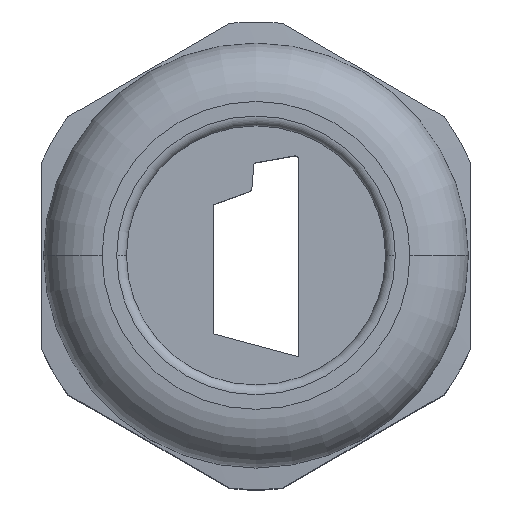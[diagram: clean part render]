
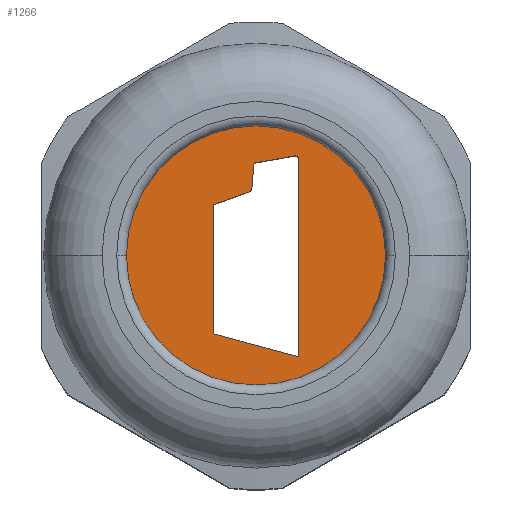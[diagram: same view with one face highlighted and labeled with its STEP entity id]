
A CAD part, top view. The second image highlights one B-rep face of the part: STEP entity #1266.
In plain terms, the highlighted planar face has unit normal (0, 0, 1).
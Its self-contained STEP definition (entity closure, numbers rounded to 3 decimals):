
#537 = VERTEX_POINT ( 'NONE', #1910 ) ;
#538 = ORIENTED_EDGE ( 'NONE', *, *, #600, .F. ) ;
#543 = VERTEX_POINT ( 'NONE', #1904 ) ;
#544 = EDGE_CURVE ( 'NONE', #545, #543, #1903, .T. ) ;
#545 = VERTEX_POINT ( 'NONE', #1899 ) ;
#572 = EDGE_CURVE ( 'NONE', #721, #685, #2067, .T. ) ;
#573 = ORIENTED_EDGE ( 'NONE', *, *, #572, .F. ) ;
#600 = EDGE_CURVE ( 'NONE', #601, #537, #2030, .T. ) ;
#601 = VERTEX_POINT ( 'NONE', #2021 ) ;
#627 = ORIENTED_EDGE ( 'NONE', *, *, #628, .F. ) ;
#628 = EDGE_CURVE ( 'NONE', #685, #545, #2270, .T. ) ;
#629 = EDGE_LOOP ( 'NONE', ( #688, #752 ) ) ;
#630 = EDGE_CURVE ( 'NONE', #721, #631, #2266, .T. ) ;
#631 = VERTEX_POINT ( 'NONE', #2261 ) ;
#654 = VERTEX_POINT ( 'NONE', #2170 ) ;
#655 = ORIENTED_EDGE ( 'NONE', *, *, #741, .T. ) ;
#661 = ORIENTED_EDGE ( 'NONE', *, *, #662, .F. ) ;
#662 = EDGE_CURVE ( 'NONE', #537, #631, #2167, .T. ) ;
#663 = ORIENTED_EDGE ( 'NONE', *, *, #544, .F. ) ;
#685 = VERTEX_POINT ( 'NONE', #2141 ) ;
#688 = ORIENTED_EDGE ( 'NONE', *, *, #1265, .F. ) ;
#721 = VERTEX_POINT ( 'NONE', #2115 ) ;
#727 = ORIENTED_EDGE ( 'NONE', *, *, #728, .F. ) ;
#728 = EDGE_CURVE ( 'NONE', #543, #654, #2334, .T. ) ;
#741 = EDGE_CURVE ( 'NONE', #601, #654, #2307, .T. ) ;
#742 = ORIENTED_EDGE ( 'NONE', *, *, #630, .T. ) ;
#752 = ORIENTED_EDGE ( 'NONE', *, *, #859, .F. ) ;
#857 = VERTEX_POINT ( 'NONE', #2377 ) ;
#859 = EDGE_CURVE ( 'NONE', #857, #860, #2376, .T. ) ;
#860 = VERTEX_POINT ( 'NONE', #2457 ) ;
#1265 = EDGE_CURVE ( 'NONE', #860, #857, #3008, .T. ) ;
#1266 = ADVANCED_FACE ( 'NONE', ( #3003, #3002 ), #3001, .T. ) ;
#1267 = EDGE_LOOP ( 'NONE', ( #573, #742, #661, #538, #655, #727, #663, #627 ) ) ;
#1899 = CARTESIAN_POINT ( 'NONE',  ( -2.2, -4.021, 31. ) ) ;
#1900 = DIRECTION ( 'NONE',  ( 0.966, -0.259, 0. ) ) ;
#1901 = VECTOR ( 'NONE', #1900, 1000. ) ;
#1902 = CARTESIAN_POINT ( 'NONE',  ( 2.2, -5.2, 31. ) ) ;
#1903 = LINE ( 'NONE', #1902, #1901 ) ;
#1904 = CARTESIAN_POINT ( 'NONE',  ( 2.2, -5.2, 31. ) ) ;
#1910 = CARTESIAN_POINT ( 'NONE',  ( -0.1, 4.744, 31. ) ) ;
#2021 = CARTESIAN_POINT ( 'NONE',  ( 1.965, 5.109, 31. ) ) ;
#2022 = DIRECTION ( 'NONE',  ( -0.985, -0.174, 0. ) ) ;
#2023 = VECTOR ( 'NONE', #2022, 1000. ) ;
#2024 = CARTESIAN_POINT ( 'NONE',  ( -0.1, 4.744, 31. ) ) ;
#2030 = LINE ( 'NONE', #2024, #2023 ) ;
#2064 = DIRECTION ( 'NONE',  ( -0.94, -0.342, 0. ) ) ;
#2065 = VECTOR ( 'NONE', #2064, 1000. ) ;
#2066 = CARTESIAN_POINT ( 'NONE',  ( -2.2, 2.6, 31. ) ) ;
#2067 = LINE ( 'NONE', #2066, #2065 ) ;
#2115 = CARTESIAN_POINT ( 'NONE',  ( -0.344, 3.275, 31. ) ) ;
#2141 = CARTESIAN_POINT ( 'NONE',  ( -2.2, 2.6, 31. ) ) ;
#2164 = DIRECTION ( 'NONE',  ( -0.087, -0.996, 0. ) ) ;
#2165 = VECTOR ( 'NONE', #2164, 1000. ) ;
#2166 = CARTESIAN_POINT ( 'NONE',  ( -0.225, 3.319, 31. ) ) ;
#2167 = LINE ( 'NONE', #2166, #2165 ) ;
#2170 = CARTESIAN_POINT ( 'NONE',  ( 2.2, 4.912, 31. ) ) ;
#2261 = CARTESIAN_POINT ( 'NONE',  ( -0.214, 3.446, 31. ) ) ;
#2262 = DIRECTION ( 'NONE',  ( 1., 0., 0. ) ) ;
#2263 = DIRECTION ( 'NONE',  ( 0., 0., 1. ) ) ;
#2264 = CARTESIAN_POINT ( 'NONE',  ( -0.413, 3.463, 31. ) ) ;
#2265 = AXIS2_PLACEMENT_3D ( 'NONE', #2264, #2263, #2262 ) ;
#2266 = CIRCLE ( 'NONE', #2265, 0.2 ) ;
#2267 = DIRECTION ( 'NONE',  ( 0., -1., 0. ) ) ;
#2268 = VECTOR ( 'NONE', #2267, 1000. ) ;
#2269 = CARTESIAN_POINT ( 'NONE',  ( -2.2, -4.021, 31. ) ) ;
#2270 = LINE ( 'NONE', #2269, #2268 ) ;
#2303 = DIRECTION ( 'NONE',  ( 1., 0., 0. ) ) ;
#2304 = DIRECTION ( 'NONE',  ( 0., 0., -1. ) ) ;
#2305 = CARTESIAN_POINT ( 'NONE',  ( 2., 4.912, 31. ) ) ;
#2306 = AXIS2_PLACEMENT_3D ( 'NONE', #2305, #2304, #2303 ) ;
#2307 = CIRCLE ( 'NONE', #2306, 0.2 ) ;
#2327 = DIRECTION ( 'NONE',  ( 0., 1., 0. ) ) ;
#2328 = VECTOR ( 'NONE', #2327, 1000. ) ;
#2329 = CARTESIAN_POINT ( 'NONE',  ( 2.2, 5.15, 31. ) ) ;
#2334 = LINE ( 'NONE', #2329, #2328 ) ;
#2372 = DIRECTION ( 'NONE',  ( -1., 0., 0. ) ) ;
#2373 = DIRECTION ( 'NONE',  ( 0., 0., -1. ) ) ;
#2374 = CARTESIAN_POINT ( 'NONE',  ( 0., 0., 31. ) ) ;
#2375 = AXIS2_PLACEMENT_3D ( 'NONE', #2374, #2373, #2372 ) ;
#2376 = CIRCLE ( 'NONE', #2375, 6.65 ) ;
#2377 = CARTESIAN_POINT ( 'NONE',  ( 6.65, 0., 31. ) ) ;
#2457 = CARTESIAN_POINT ( 'NONE',  ( -6.65, 0., 31. ) ) ;
#2997 = DIRECTION ( 'NONE',  ( 1., 0., 0. ) ) ;
#2998 = DIRECTION ( 'NONE',  ( 0., 0., 1. ) ) ;
#2999 = CARTESIAN_POINT ( 'NONE',  ( 0., 6.65, 31. ) ) ;
#3000 = AXIS2_PLACEMENT_3D ( 'NONE', #2999, #2998, #2997 ) ;
#3001 = PLANE ( 'NONE',  #3000 ) ;
#3002 = FACE_OUTER_BOUND ( 'NONE', #629, .T. ) ;
#3003 = FACE_BOUND ( 'NONE', #1267, .T. ) ;
#3004 = DIRECTION ( 'NONE',  ( -1., 0., 0. ) ) ;
#3005 = DIRECTION ( 'NONE',  ( 0., 0., -1. ) ) ;
#3006 = CARTESIAN_POINT ( 'NONE',  ( 0., 0., 31. ) ) ;
#3007 = AXIS2_PLACEMENT_3D ( 'NONE', #3006, #3005, #3004 ) ;
#3008 = CIRCLE ( 'NONE', #3007, 6.65 ) ;
